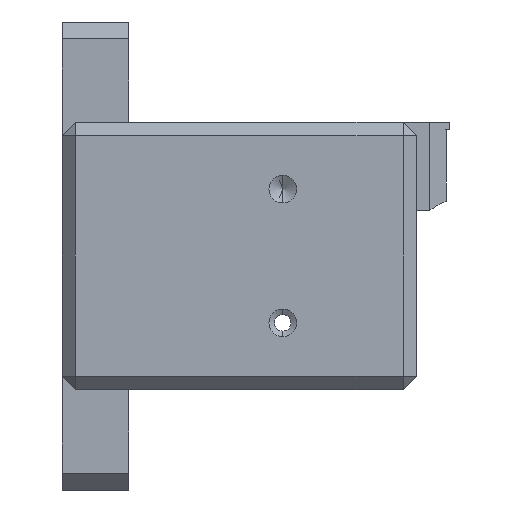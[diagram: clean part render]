
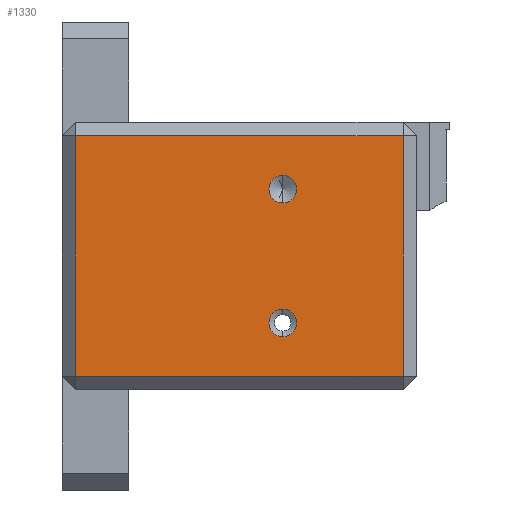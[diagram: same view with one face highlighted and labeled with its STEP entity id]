
A CAD part, front view. The second image highlights one B-rep face of the part: STEP entity #1330.
In plain terms, the highlighted planar face has unit normal (0, -1, 0).
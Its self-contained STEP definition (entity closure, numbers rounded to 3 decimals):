
#1 = VERTEX_POINT ( 'NONE', #2097 ) ;
#3 = AXIS2_PLACEMENT_3D ( 'NONE', #1938, #2124, #1074 ) ;
#101 = CARTESIAN_POINT ( 'NONE',  ( 22., -14., 18. ) ) ;
#123 = FACE_BOUND ( 'NONE', #1580, .T. ) ;
#174 = DIRECTION ( 'NONE',  ( 0., 0., -1. ) ) ;
#181 = ORIENTED_EDGE ( 'NONE', *, *, #2018, .T. ) ;
#182 = DIRECTION ( 'NONE',  ( -1., 0., 0. ) ) ;
#221 = EDGE_CURVE ( 'NONE', #1810, #2178, #1197, .T. ) ;
#262 = AXIS2_PLACEMENT_3D ( 'NONE', #1986, #934, #2166 ) ;
#350 = CIRCLE ( 'NONE', #2194, 2.067 ) ;
#363 = ORIENTED_EDGE ( 'NONE', *, *, #933, .F. ) ;
#371 = CARTESIAN_POINT ( 'NONE',  ( 22., -14., -18. ) ) ;
#437 = CARTESIAN_POINT ( 'NONE',  ( 4., -14., -7.933 ) ) ;
#447 = EDGE_CURVE ( 'NONE', #1136, #1304, #1692, .T. ) ;
#449 = LINE ( 'NONE', #1131, #877 ) ;
#451 = EDGE_CURVE ( 'NONE', #1304, #1136, #350, .T. ) ;
#470 = DIRECTION ( 'NONE',  ( 1., 0., 0. ) ) ;
#513 = LINE ( 'NONE', #1695, #2030 ) ;
#589 = FACE_BOUND ( 'NONE', #1280, .T. ) ;
#685 = AXIS2_PLACEMENT_3D ( 'NONE', #2249, #1611, #1835 ) ;
#727 = VECTOR ( 'NONE', #1167, 1000. ) ;
#768 = CARTESIAN_POINT ( 'NONE',  ( 4., -14., -10. ) ) ;
#877 = VECTOR ( 'NONE', #953, 1000. ) ;
#901 = ORIENTED_EDGE ( 'NONE', *, *, #1805, .T. ) ;
#933 = EDGE_CURVE ( 'NONE', #1, #1199, #1408, .T. ) ;
#934 = DIRECTION ( 'NONE',  ( 0., -1., 0. ) ) ;
#942 = DIRECTION ( 'NONE',  ( 0., 0., -1. ) ) ;
#953 = DIRECTION ( 'NONE',  ( 0., 0., -1. ) ) ;
#954 = ORIENTED_EDGE ( 'NONE', *, *, #447, .F. ) ;
#1062 = CARTESIAN_POINT ( 'NONE',  ( -27., -14., -18. ) ) ;
#1074 = DIRECTION ( 'NONE',  ( 0., 0., 1. ) ) ;
#1083 = VECTOR ( 'NONE', #182, 1000. ) ;
#1131 = CARTESIAN_POINT ( 'NONE',  ( -27., -14., 20. ) ) ;
#1136 = VERTEX_POINT ( 'NONE', #2075 ) ;
#1167 = DIRECTION ( 'NONE',  ( 0., 0., 1. ) ) ;
#1190 = EDGE_CURVE ( 'NONE', #1526, #1679, #449, .T. ) ;
#1197 = LINE ( 'NONE', #1337, #727 ) ;
#1199 = VERTEX_POINT ( 'NONE', #1812 ) ;
#1239 = DIRECTION ( 'NONE',  ( 0., -1., 0. ) ) ;
#1280 = EDGE_LOOP ( 'NONE', ( #1901, #363 ) ) ;
#1304 = VERTEX_POINT ( 'NONE', #437 ) ;
#1315 = EDGE_CURVE ( 'NONE', #1199, #1, #1586, .T. ) ;
#1330 = ADVANCED_FACE ( 'NONE', ( #2000, #589, #123 ), #1746, .F. ) ;
#1332 = ORIENTED_EDGE ( 'NONE', *, *, #1190, .T. ) ;
#1337 = CARTESIAN_POINT ( 'NONE',  ( 22., -14., 20. ) ) ;
#1405 = CARTESIAN_POINT ( 'NONE',  ( -27., -14., 18. ) ) ;
#1408 = CIRCLE ( 'NONE', #685, 2.067 ) ;
#1526 = VERTEX_POINT ( 'NONE', #1405 ) ;
#1556 = EDGE_LOOP ( 'NONE', ( #2233, #901, #1332, #181 ) ) ;
#1580 = EDGE_LOOP ( 'NONE', ( #954, #1852 ) ) ;
#1586 = CIRCLE ( 'NONE', #2186, 2.067 ) ;
#1611 = DIRECTION ( 'NONE',  ( 0., -1., 0. ) ) ;
#1642 = LINE ( 'NONE', #2132, #1083 ) ;
#1679 = VERTEX_POINT ( 'NONE', #1062 ) ;
#1692 = CIRCLE ( 'NONE', #262, 2.067 ) ;
#1695 = CARTESIAN_POINT ( 'NONE',  ( -29., -14., -18. ) ) ;
#1746 = PLANE ( 'NONE',  #3 ) ;
#1805 = EDGE_CURVE ( 'NONE', #2178, #1526, #1642, .T. ) ;
#1810 = VERTEX_POINT ( 'NONE', #371 ) ;
#1812 = CARTESIAN_POINT ( 'NONE',  ( 4., -14., 7.933 ) ) ;
#1835 = DIRECTION ( 'NONE',  ( 0., 0., -1. ) ) ;
#1852 = ORIENTED_EDGE ( 'NONE', *, *, #451, .F. ) ;
#1901 = ORIENTED_EDGE ( 'NONE', *, *, #1315, .F. ) ;
#1938 = CARTESIAN_POINT ( 'NONE',  ( -29., -14., 20. ) ) ;
#1986 = CARTESIAN_POINT ( 'NONE',  ( 4., -14., -10. ) ) ;
#1991 = DIRECTION ( 'NONE',  ( 0., -1., 0. ) ) ;
#2000 = FACE_OUTER_BOUND ( 'NONE', #1556, .T. ) ;
#2018 = EDGE_CURVE ( 'NONE', #1679, #1810, #513, .T. ) ;
#2030 = VECTOR ( 'NONE', #470, 1000. ) ;
#2075 = CARTESIAN_POINT ( 'NONE',  ( 4., -14., -12.067 ) ) ;
#2097 = CARTESIAN_POINT ( 'NONE',  ( 4., -14., 12.067 ) ) ;
#2124 = DIRECTION ( 'NONE',  ( 0., 1., 0. ) ) ;
#2132 = CARTESIAN_POINT ( 'NONE',  ( -29., -14., 18. ) ) ;
#2166 = DIRECTION ( 'NONE',  ( 0., 0., -1. ) ) ;
#2178 = VERTEX_POINT ( 'NONE', #101 ) ;
#2186 = AXIS2_PLACEMENT_3D ( 'NONE', #2288, #1239, #174 ) ;
#2194 = AXIS2_PLACEMENT_3D ( 'NONE', #768, #1991, #942 ) ;
#2233 = ORIENTED_EDGE ( 'NONE', *, *, #221, .T. ) ;
#2249 = CARTESIAN_POINT ( 'NONE',  ( 4., -14., 10. ) ) ;
#2288 = CARTESIAN_POINT ( 'NONE',  ( 4., -14., 10. ) ) ;
